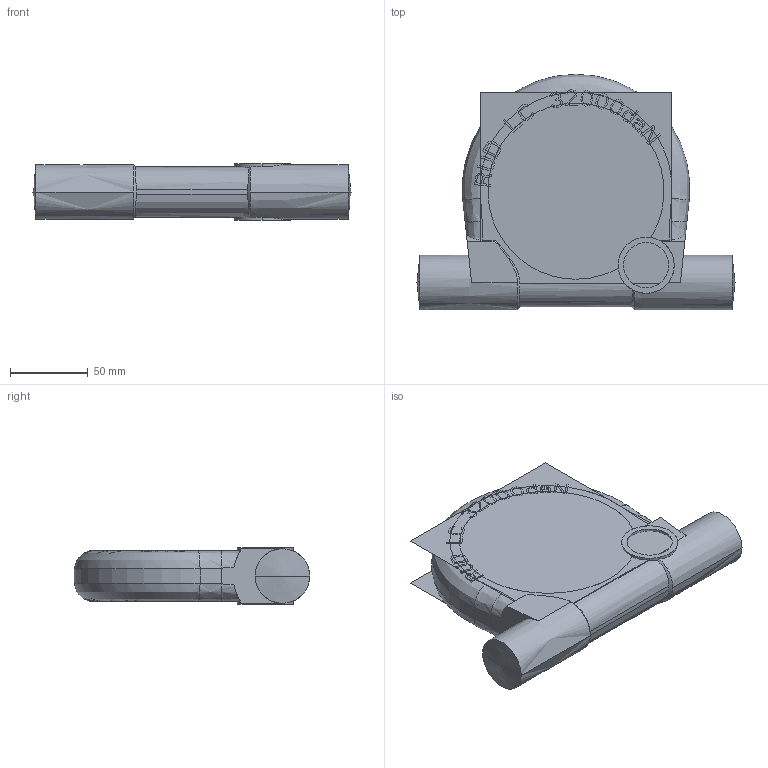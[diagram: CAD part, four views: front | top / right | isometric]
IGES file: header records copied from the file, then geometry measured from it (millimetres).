
Start section:  PTC IGES file: Zurrlasche-32000daN_7993480_M32174-P-20.igs
Global section: file name: Zurrlasche-32000daN_7993480_M32174-P-20.igs; native system: Pro/ENGINEER by Parametric Technology Corporation; preprocessor: 2010140; author: Andreas.Wendler; organization: Unknown; date: 20150819.075024; units: millimetre
Bounding box: 204 x 151 x 36 mm (x, y, z)
Volume: 430831 mm3; surface area: 130151.3 mm2
Topology: 1 solids, 3 shells, 1062 faces, 3218 edges, 2236 vertices
Faces by surface type: bspline 1009, revolution 53
